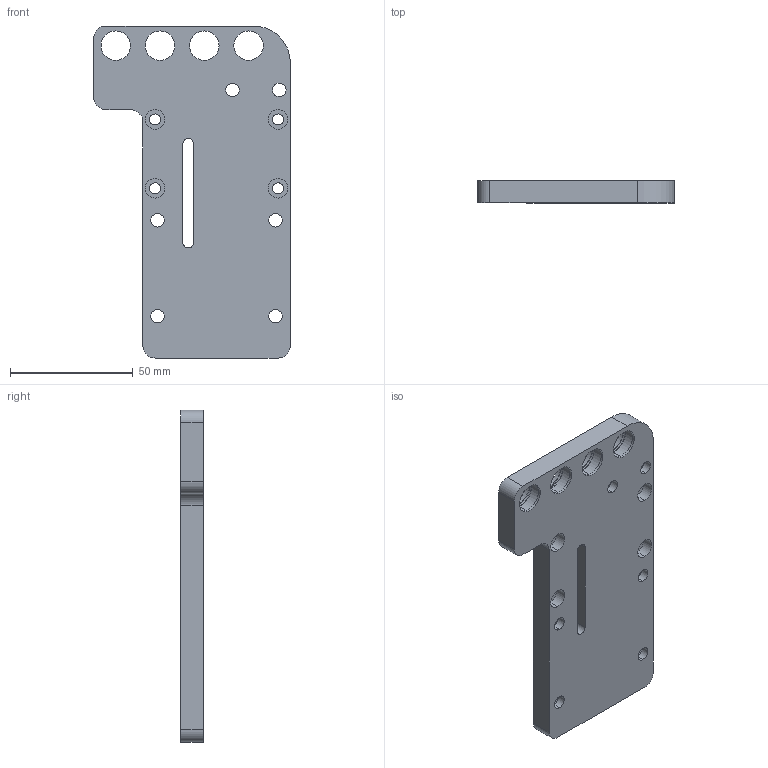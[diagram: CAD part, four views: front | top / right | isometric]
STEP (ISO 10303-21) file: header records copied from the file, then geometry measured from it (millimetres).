
FILE_DESCRIPTION (( 'STEP AP214' ), '1' );
FILE_NAME ('GZ21.24_V1絳砃謫嘐隅啣.STEP', '2021-02-28T07:04:17', ( 'hp' ), ( '' ), 'SwSTEP 2.0', 'SolidWorks 2017', '' );
FILE_SCHEMA (( 'AUTOMOTIVE_DESIGN' ));
Length unit declared in the file: millimetre
Products named in the file (1): GZ21.24_V1絳砃謫嘐隅啣
Bounding box: 80 x 9 x 135 mm (x, y, z)
Volume: 66888.1 mm3; surface area: 23998.5 mm2
Topology: 1 solids, 1 shells, 114 faces, 273 edges, 182 vertices
Faces by surface type: cylinder 80, plane 34
Entity records: 3491 total; most frequent: DIRECTION 663, CARTESIAN_POINT 570, ORIENTED_EDGE 546, AXIS2_PLACEMENT_3D 275, EDGE_CURVE 273, VERTEX_POINT 182, EDGE_LOOP 165, CIRCLE 160
